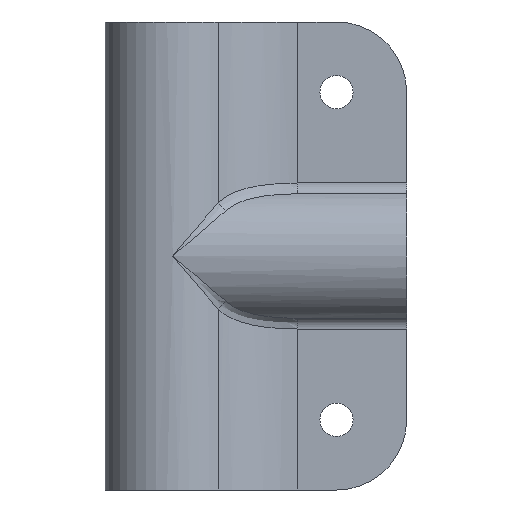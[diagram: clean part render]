
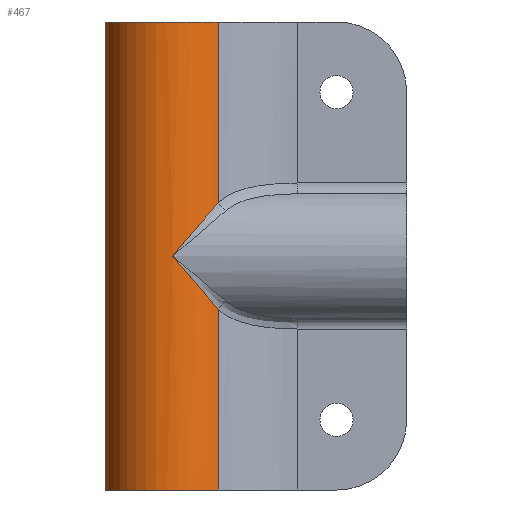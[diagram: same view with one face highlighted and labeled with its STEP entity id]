
A CAD part, front view. The second image highlights one B-rep face of the part: STEP entity #467.
In plain terms, the highlighted cylindrical face has radius 9.144 mm (diameter 18.288 mm), a partial arc.
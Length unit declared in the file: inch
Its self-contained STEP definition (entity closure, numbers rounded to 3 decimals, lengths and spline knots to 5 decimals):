
#259 = EDGE_CURVE ( 'NONE', #944, #641, #1975, .T. ) ;
#263 = EDGE_CURVE ( 'NONE', #569, #541, #2727, .T. ) ;
#265 = EDGE_CURVE ( 'NONE', #770, #603, #2006, .T. ) ;
#267 = EDGE_CURVE ( 'NONE', #641, #584, #1979, .T. ) ;
#467 = ADVANCED_FACE ( 'NONE', ( #2548 ), #2582, .T. ) ;
#541 = VERTEX_POINT ( 'NONE', #1571 ) ;
#562 = CARTESIAN_POINT ( 'NONE',  ( 0.17646, -0.32681, -0.2071 ) ) ;
#569 = VERTEX_POINT ( 'NONE', #1563 ) ;
#572 = VERTEX_POINT ( 'NONE', #1627 ) ;
#582 = CARTESIAN_POINT ( 'NONE',  ( 0., -0.36, 0. ) ) ;
#584 = VERTEX_POINT ( 'NONE', #1649 ) ;
#593 = CARTESIAN_POINT ( 'NONE',  ( 0., 0., -1.25 ) ) ;
#603 = VERTEX_POINT ( 'NONE', #2963 ) ;
#609 = CARTESIAN_POINT ( 'NONE',  ( 0.2437, -0.26497, -0.28601 ) ) ;
#634 = CARTESIAN_POINT ( 'NONE',  ( -0.36, 0., 1.25 ) ) ;
#641 = VERTEX_POINT ( 'NONE', #4696 ) ;
#724 = DIRECTION ( 'NONE',  ( 0., 0., -1. ) ) ;
#757 = DIRECTION ( 'NONE',  ( 0., 0., 1. ) ) ;
#761 = DIRECTION ( 'NONE',  ( 1., 0., 0. ) ) ;
#770 = VERTEX_POINT ( 'NONE', #4833 ) ;
#944 = VERTEX_POINT ( 'NONE', #4832 ) ;
#991 = CARTESIAN_POINT ( 'NONE',  ( 0.09135, -0.36, -0.10721 ) ) ;
#1092 = DIRECTION ( 'NONE',  ( 1., 0., 0. ) ) ;
#1118 = DIRECTION ( 'NONE',  ( 0., 0., 1. ) ) ;
#1123 = CARTESIAN_POINT ( 'NONE',  ( 0., 0., 1.25 ) ) ;
#1563 = CARTESIAN_POINT ( 'NONE',  ( 0.2437, -0.26497, -0.28601 ) ) ;
#1571 = CARTESIAN_POINT ( 'NONE',  ( 0., -0.36, 0. ) ) ;
#1627 = CARTESIAN_POINT ( 'NONE',  ( 0.2437, -0.26497, 0.28601 ) ) ;
#1649 = CARTESIAN_POINT ( 'NONE',  ( 0.2437, -0.26497, -1.25 ) ) ;
#1841 = EDGE_CURVE ( 'NONE', #572, #603, #4303, .T. ) ;
#1847 = EDGE_CURVE ( 'NONE', #584, #569, #4275, .T. ) ;
#1849 = EDGE_CURVE ( 'NONE', #770, #944, #4284, .T. ) ;
#1868 = EDGE_CURVE ( 'NONE', #541, #572, #2759, .T. ) ;
#1922 = AXIS2_PLACEMENT_3D ( 'NONE', #593, #757, #1092 ) ;
#1923 = AXIS2_PLACEMENT_3D ( 'NONE', #1123, #1118, #761 ) ;
#1975 = LINE ( 'NONE', #634, #1981 ) ;
#1979 = CIRCLE ( 'NONE', #1922, 0.36 ) ;
#1981 = VECTOR ( 'NONE', #724, 39.37008 ) ;
#2006 = CIRCLE ( 'NONE', #1923, 0.36 ) ;
#2012 = ORIENTED_EDGE ( 'NONE', *, *, #1868, .T. ) ;
#2029 = ORIENTED_EDGE ( 'NONE', *, *, #267, .T. ) ;
#2075 = ORIENTED_EDGE ( 'NONE', *, *, #259, .T. ) ;
#2098 = ORIENTED_EDGE ( 'NONE', *, *, #265, .F. ) ;
#2101 = ORIENTED_EDGE ( 'NONE', *, *, #1847, .T. ) ;
#2103 = ORIENTED_EDGE ( 'NONE', *, *, #1841, .T. ) ;
#2224 = ORIENTED_EDGE ( 'NONE', *, *, #1849, .T. ) ;
#2548 = FACE_OUTER_BOUND ( 'NONE', #6409, .T. ) ;
#2582 = CYLINDRICAL_SURFACE ( 'NONE', #5353, 0.36 ) ;
#2727 =( BOUNDED_CURVE ( )  B_SPLINE_CURVE ( 3, ( #609, #562, #991, #582 ),
 .UNSPECIFIED., .F., .F. ) 
 B_SPLINE_CURVE_WITH_KNOTS ( ( 4, 4 ),
 ( 3.9688, 4.71239 ),
 .UNSPECIFIED. ) 
 CURVE ( )  GEOMETRIC_REPRESENTATION_ITEM ( )  RATIONAL_B_SPLINE_CURVE ( ( 1., 0.954, 0.954, 1. ) ) 
 REPRESENTATION_ITEM ( '' )  );
#2759 =( BOUNDED_CURVE ( )  B_SPLINE_CURVE ( 3, ( #6106, #6101, #6170, #6145 ),
 .UNSPECIFIED., .F., .T. ) 
 B_SPLINE_CURVE_WITH_KNOTS ( ( 4, 4 ),
 ( 1.5708, 2.31439 ),
 .UNSPECIFIED. ) 
 CURVE ( )  GEOMETRIC_REPRESENTATION_ITEM ( )  RATIONAL_B_SPLINE_CURVE ( ( 1., 0.954, 0.954, 1. ) ) 
 REPRESENTATION_ITEM ( '' )  );
#2963 = CARTESIAN_POINT ( 'NONE',  ( 0.2437, -0.26497, 1.25 ) ) ;
#3332 = ORIENTED_EDGE ( 'NONE', *, *, #263, .T. ) ;
#4272 = VECTOR ( 'NONE', #6171, 39.37008 ) ;
#4274 = VECTOR ( 'NONE', #6152, 39.37008 ) ;
#4275 = LINE ( 'NONE', #6164, #4274 ) ;
#4284 = LINE ( 'NONE', #6117, #4272 ) ;
#4292 = VECTOR ( 'NONE', #6206, 39.37008 ) ;
#4303 = LINE ( 'NONE', #6205, #4292 ) ;
#4696 = CARTESIAN_POINT ( 'NONE',  ( -0.36, 0., -1.25 ) ) ;
#4832 = CARTESIAN_POINT ( 'NONE',  ( -0.36, 0., 0. ) ) ;
#4833 = CARTESIAN_POINT ( 'NONE',  ( -0.36, 0., 1.25 ) ) ;
#5353 = AXIS2_PLACEMENT_3D ( 'NONE', #7290, #6511, #7151 ) ;
#6101 = CARTESIAN_POINT ( 'NONE',  ( 0.09135, -0.36, 0.10721 ) ) ;
#6106 = CARTESIAN_POINT ( 'NONE',  ( 0., -0.36, 0. ) ) ;
#6117 = CARTESIAN_POINT ( 'NONE',  ( -0.36, 0., 1.25 ) ) ;
#6145 = CARTESIAN_POINT ( 'NONE',  ( 0.2437, -0.26497, 0.28601 ) ) ;
#6152 = DIRECTION ( 'NONE',  ( 0., 0., 1. ) ) ;
#6164 = CARTESIAN_POINT ( 'NONE',  ( 0.2437, -0.26497, 1.25 ) ) ;
#6170 = CARTESIAN_POINT ( 'NONE',  ( 0.17646, -0.32681, 0.2071 ) ) ;
#6171 = DIRECTION ( 'NONE',  ( 0., 0., -1. ) ) ;
#6205 = CARTESIAN_POINT ( 'NONE',  ( 0.2437, -0.26497, 1.25 ) ) ;
#6206 = DIRECTION ( 'NONE',  ( 0., 0., 1. ) ) ;
#6409 = EDGE_LOOP ( 'NONE', ( #2098, #2224, #2075, #2029, #2101, #3332, #2012, #2103 ) ) ;
#6511 = DIRECTION ( 'NONE',  ( 0., 0., -1. ) ) ;
#7151 = DIRECTION ( 'NONE',  ( -1., 0., 0. ) ) ;
#7290 = CARTESIAN_POINT ( 'NONE',  ( 0., 0., 1.25 ) ) ;
